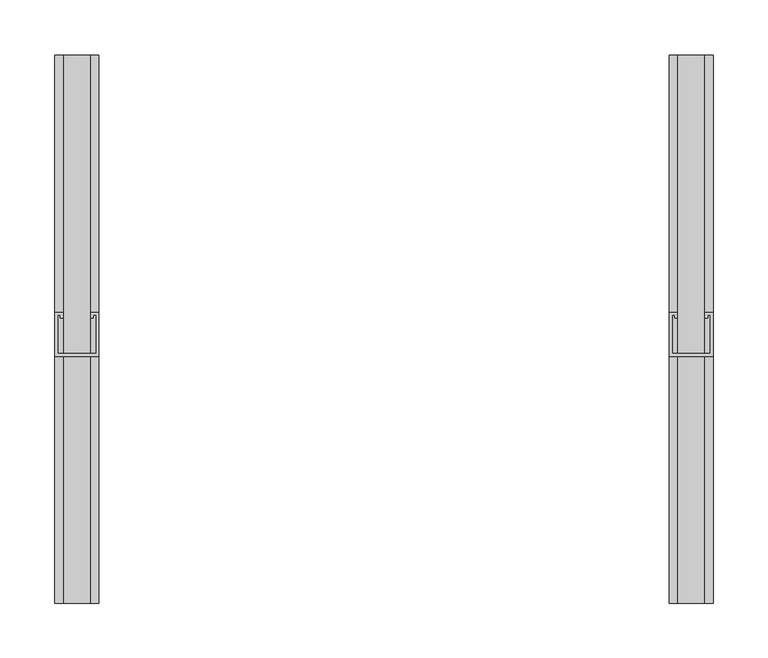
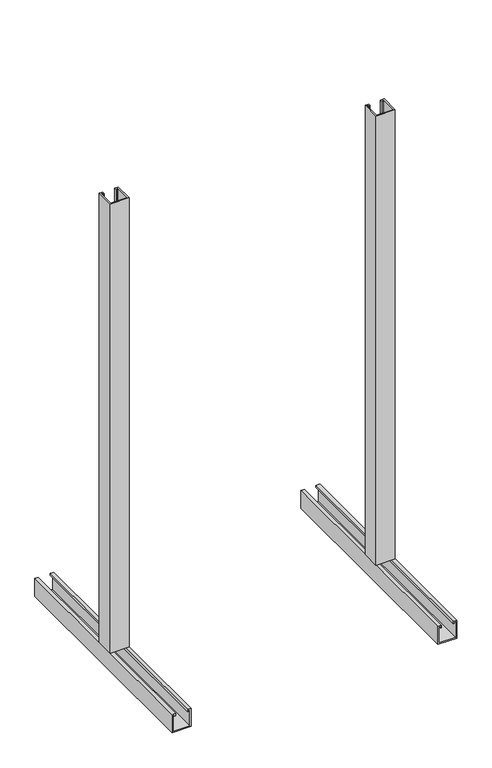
"""IFC4 building model written with IfcOpenShell, lengths in millimetres: electric distribution board geometry, DKC_Комплект для напольного крепления : DKC_Комплект для напольного крепления."""

from ifc_helpers import new_model, si_unit, frame, origin, place, context, project, spatial, polyline, outline, extrude, source, transform, mapped, element, save


def electric_distribution_board_bb44641b(model_context):
    return source(origin(), model_context, "Body", "SweptSolid", [
        extrude(outline(polyline([(-300.0, 0.0), (-300.0, 40.0), (-292.5, 40.0), (-292.5, 35.0), (-295.0, 35.0), (-295.0, 37.5), (-297.5, 37.5), (-297.5, 2.5), (-262.5, 2.5), (-262.5, 37.5), (-265.0, 37.5), (-265.0, 35.0), (-267.5, 35.0), (-267.5, 40.0), (-260.0, 40.0), (-260.0, 0.0), (-300.0, 0.0)])), frame((0.0, 0.0, 40.0), z_axis=(0.0, 0.0, 1.0), x_axis=(1.0, 0.0, 0.0)), (0.0, 0.0, 1.0), 1000.0),
        extrude(outline(polyline([(0.0, -300.0), (0.0, -260.0), (40.0, -260.0), (40.0, -267.5), (35.0, -267.5), (35.0, -265.0), (37.5, -265.0), (37.5, -262.5), (2.5, -262.5), (2.5, -297.5), (37.5, -297.5), (37.5, -295.0), (35.0, -295.0), (35.0, -292.5), (40.0, -292.5), (40.0, -300.0), (0.0, -300.0)])), frame((0.0, -225.0, 0.0), z_axis=(0.0, 1.0, 0.0), x_axis=(0.0, 0.0, 1.0)), (0.0, 0.0, 1.0), 500.0),
        extrude(outline(polyline([(260.0, 0.0), (260.0, 40.0), (267.5, 40.0), (267.5, 35.0), (265.0, 35.0), (265.0, 37.5), (262.5, 37.5), (262.5, 2.5), (297.5, 2.5), (297.5, 37.5), (295.0, 37.5), (295.0, 35.0), (292.5, 35.0), (292.5, 40.0), (300.0, 40.0), (300.0, 0.0), (260.0, 0.0)])), frame((0.0, 0.0, 40.0), z_axis=(0.0, 0.0, 1.0), x_axis=(1.0, 0.0, 0.0)), (0.0, 0.0, 1.0), 1000.0),
        extrude(outline(polyline([(0.0, 260.0), (0.0, 300.0), (40.0, 300.0), (40.0, 292.5), (35.0, 292.5), (35.0, 295.0), (37.5, 295.0), (37.5, 297.5), (2.5, 297.5), (2.5, 262.5), (37.5, 262.5), (37.5, 265.0), (35.0, 265.0), (35.0, 267.5), (40.0, 267.5), (40.0, 260.0), (0.0, 260.0)])), frame((0.0, -225.0, 0.0), z_axis=(0.0, 1.0, 0.0), x_axis=(0.0, 0.0, 1.0)), (0.0, 0.0, 1.0), 500.0),
    ])


if __name__ == "__main__":
    model = new_model("IFC4")
    model_context = context("Model", 3, world=origin())
    ifc_project = project(units=[si_unit("LENGTHUNIT", "METRE", prefix="MILLI")], contexts=[model_context])
    site = spatial("IfcSite", under=ifc_project)
    building = spatial("IfcBuilding", under=site)
    placement = place(None, origin())
    electric_distribution_board_shape = electric_distribution_board_bb44641b(model_context)
    element("IfcElectricDistributionBoard", 1, ObjectType="DKC_Комплект для напольного крепления : DKC_Комплект для напольного крепления", at=placement, inside=building, context=model_context, shape_type="MappedRepresentation", body=[
        mapped(electric_distribution_board_shape, transform((0.0, 0.0, 0.0), x_axis=(1.0, 0.0, 0.0), y_axis=(0.0, 1.0, 0.0), z_axis=(0.0, 0.0, 1.0))),
    ])
    save(model, "model.ifc")
